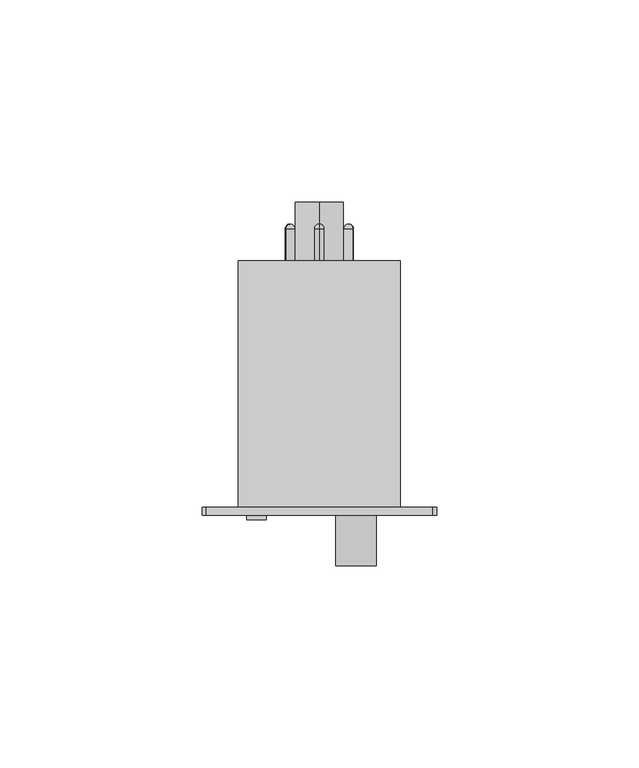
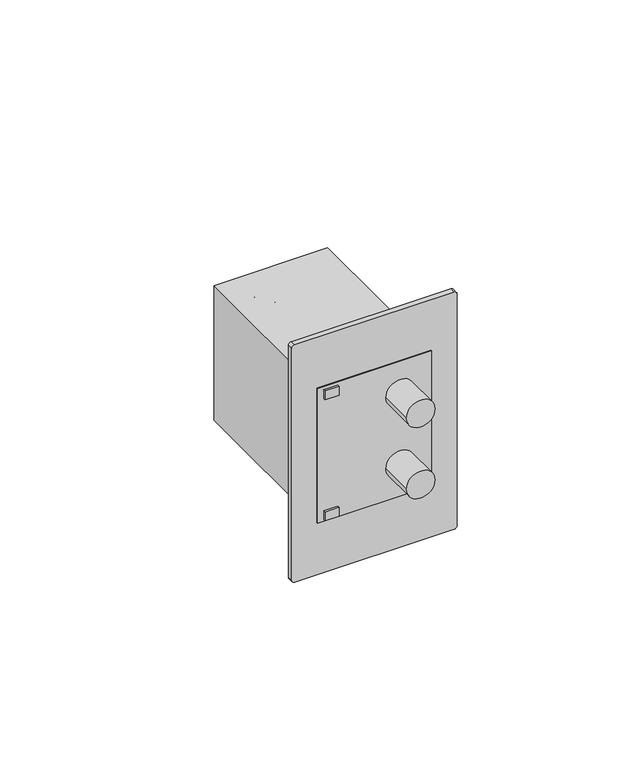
"""IFC4 building model written with IfcOpenShell, lengths in millimetres: proxy geometry, TDM_РЕЛЕ ВРЕМЕНИ ЦОКОЛЬНЫЙ СЕРИИ РВ51-РВ52-РВ53 : РВ51-2Т-60х60 сек -5 А-220 В-8Ц/Щ."""

from ifc_helpers import new_model, si_unit, point, frame, frame_2d, origin, place, context, project, spatial, polyline, circle_curve, ellipse_curve, trimmed, segment, composite_curve, outline, extrude, source, transform, mapped, element, save
from ifc_brep_helpers import plane_surface, cylinder_surface, revolved_surface, advanced_brep


def electrical_equipment_c476cc4e(model_context):
    return source(origin(), model_context, "Body", "SolidModel", [
        advanced_brep(
        [(6.2627831, 36.9318195, 3.6158195), (8.2791554, 36.9318195, 4.7799726), (7.2709693, 38.0410993, 4.1978961), (6.2627831, 29.0, 3.6158195), (8.2791554, 29.0, 4.7799726), (7.2709693, 29.0, 4.1978961)],
        [
            (0, 1, circle_curve(frame((7.2709693, 36.9318195, 4.1978961), z_axis=(0.0, 1.0, 0.0), x_axis=(0.8660254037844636, 0.0, 0.49999999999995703)), 1.1641531)),
            (1, 2, circle_curve(frame((7.3173709, 36.9318195, 4.2246861), z_axis=(-0.49999999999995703, 0.0, 0.8660254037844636), x_axis=(0.0, -1.0, 0.0)), 1.1105731)),
            (2, 0, circle_curve(frame((7.2245676, 36.9318195, 4.171106), z_axis=(-0.49999999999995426, 0.0, 0.8660254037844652), x_axis=(0.0, -1.0, 0.0)), 1.1105731)),
            (1, 0, circle_curve(frame((7.2709693, 36.9318195, 4.1978961), z_axis=(0.0, 1.0, 0.0), x_axis=(0.8660254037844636, 0.0, 0.49999999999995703)), 1.1641531)),
            (3, 4, circle_curve(frame((7.2709693, 29.0, 4.1978961), z_axis=(0.0, 1.0, 0.0), x_axis=(0.8660254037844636, 0.0, 0.49999999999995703)), 1.1641531)),
            (4, 1),
            (0, 3),
            (4, 3, circle_curve(frame((7.2709693, 29.0, 4.1978961), z_axis=(0.0, 1.0, 0.0), x_axis=(0.8660254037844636, 0.0, 0.49999999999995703)), 1.1641531)),
            (5, 4),
            (3, 5),
        ],
        [
            revolved_surface(trimmed(ellipse_curve(frame((7.3173709, 36.9318195, 4.2246861), z_axis=(0.49999999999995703, 0.0, -0.8660254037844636), x_axis=(0.0, -1.0, 0.0)), 1.1105731, 1.1105731), [point((7.2709693, 38.0410993, 4.1978961))], [point((8.2791554, 36.9318195, 4.7799726))], True, "CARTESIAN"), (7.2709693, 36.0076957, 4.1978961), (0.0, -1.0, 0.0)),
            cylinder_surface(frame((7.2709693, 36.0076957, 4.1978961), z_axis=(0.0, -1.0, 0.0), x_axis=(0.8660254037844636, 0.0, 0.49999999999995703)), 1.1641531),
            plane_surface(frame((7.2709693, 29.0, 4.1978961), z_axis=(0.0, -1.0000000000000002, 0.0), x_axis=(0.8660254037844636, 0.0, 0.49999999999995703))),
        ],
        [
            (0, [[1, 2, 3]]),
            (0, [[4, -3, -2]]),
            (1, [[5, 6, -1, 7]]),
            (1, [[8, -7, -4, -6]]),
            (2, [[9, -5, 10]]),
            (2, [[-10, -8, -9]]),
        ],
    ),
        advanced_brep(
        [(6.2627831, 36.9318195, -3.6158195), (8.2791554, 36.9318195, -4.7799726), (7.2709693, 38.0410993, -4.1978961), (6.2627831, 29.0, -3.6158195), (8.2791554, 29.0, -4.7799726), (7.2709693, 29.0, -4.1978961)],
        [
            (0, 1, circle_curve(frame((7.2709693, 36.9318195, -4.1978961), z_axis=(0.0, 1.0, 0.0), x_axis=(0.8660254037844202, 0.0, -0.5000000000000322)), 1.1641531)),
            (1, 2, circle_curve(frame((7.3173709, 36.9318195, -4.2246861), z_axis=(0.5000000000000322, 0.0, 0.8660254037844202), x_axis=(0.0, -1.0, 0.0)), 1.1105731)),
            (2, 0, circle_curve(frame((7.2245676, 36.9318195, -4.171106), z_axis=(0.500000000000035, 0.0, 0.8660254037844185), x_axis=(0.0, -1.0, 0.0)), 1.1105731)),
            (1, 0, circle_curve(frame((7.2709693, 36.9318195, -4.1978961), z_axis=(0.0, 1.0, 0.0), x_axis=(0.8660254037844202, 0.0, -0.5000000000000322)), 1.1641531)),
            (3, 4, circle_curve(frame((7.2709693, 29.0, -4.1978961), z_axis=(0.0, 1.0, 0.0), x_axis=(0.8660254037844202, 0.0, -0.5000000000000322)), 1.1641531)),
            (4, 1),
            (0, 3),
            (4, 3, circle_curve(frame((7.2709693, 29.0, -4.1978961), z_axis=(0.0, 1.0, 0.0), x_axis=(0.8660254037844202, 0.0, -0.5000000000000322)), 1.1641531)),
            (5, 4),
            (3, 5),
        ],
        [
            revolved_surface(trimmed(ellipse_curve(frame((7.3173709, 36.9318195, -4.2246861), z_axis=(-0.5000000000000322, 0.0, -0.8660254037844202), x_axis=(0.0, -1.0, 0.0)), 1.1105731, 1.1105731), [point((7.2709693, 38.0410993, -4.1978961))], [point((8.2791554, 36.9318195, -4.7799726))], True, "CARTESIAN"), (7.2709693, 36.0076957, -4.1978961), (0.0, -1.0, 0.0)),
            cylinder_surface(frame((7.2709693, 36.0076957, -4.1978961), z_axis=(0.0, -1.0, 0.0), x_axis=(0.8660254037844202, 0.0, -0.5000000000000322)), 1.1641531),
            plane_surface(frame((7.2709693, 29.0, -4.1978961), z_axis=(0.0, -1.0000000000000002, 0.0), x_axis=(0.8660254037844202, 0.0, -0.5000000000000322))),
        ],
        [
            (0, [[1, 2, 3]]),
            (0, [[4, -3, -2]]),
            (1, [[5, 6, -1, 7]]),
            (1, [[8, -7, -4, -6]]),
            (2, [[9, -5, 10]]),
            (2, [[-10, -8, -9]]),
        ],
    ),
        advanced_brep(
        [(0.0, 36.9318195, -7.231639), (0.0, 36.9318195, -9.5599453), (0.0, 38.0410993, -8.3957921), (0.0, 29.0, -7.231639), (0.0, 29.0, -9.5599453), (0.0, 29.0, -8.3957921)],
        [
            (0, 1, circle_curve(frame((0.0, 36.9318195, -8.3957921), z_axis=(0.0, 1.0, 0.0), x_axis=(0.0, 0.0, -1.0)), 1.1641531)),
            (1, 2, circle_curve(frame((0.0, 36.9318195, -8.4493722), z_axis=(1.0, 0.0, 0.0), x_axis=(0.0, -1.0, 0.0)), 1.1105731)),
            (2, 0, circle_curve(frame((0.0, 36.9318195, -8.3422121), z_axis=(1.0, 0.0, 0.0), x_axis=(0.0, -1.0, 0.0)), 1.1105731)),
            (1, 0, circle_curve(frame((0.0, 36.9318195, -8.3957921), z_axis=(0.0, 1.0, 0.0), x_axis=(0.0, 0.0, -1.0)), 1.1641531)),
            (3, 4, circle_curve(frame((0.0, 29.0, -8.3957921), z_axis=(0.0, 1.0, 0.0), x_axis=(0.0, 0.0, -1.0)), 1.1641531)),
            (4, 1),
            (0, 3),
            (4, 3, circle_curve(frame((0.0, 29.0, -8.3957921), z_axis=(0.0, 1.0, 0.0), x_axis=(0.0, 0.0, -1.0)), 1.1641531)),
            (5, 4),
            (3, 5),
        ],
        [
            revolved_surface(trimmed(ellipse_curve(frame((0.0, 36.9318195, -8.4493722), z_axis=(-1.0, 0.0, 0.0), x_axis=(0.0, -1.0, 0.0)), 1.1105731, 1.1105731), [point((0.0, 38.0410993, -8.3957921))], [point((0.0, 36.9318195, -9.5599453))], True, "CARTESIAN"), (0.0, 36.0076957, -8.3957921), (0.0, -1.0, 0.0)),
            cylinder_surface(frame((0.0, 36.0076957, -8.3957921), z_axis=(0.0, -1.0, 0.0), x_axis=(0.0, 0.0, -1.0)), 1.1641531),
            plane_surface(frame((0.0, 29.0, -8.3957921), z_axis=(0.0, -1.0, 0.0), x_axis=(0.0, 0.0, -1.0))),
        ],
        [
            (0, [[1, 2, 3]]),
            (0, [[4, -3, -2]]),
            (1, [[5, 6, -1, 7]]),
            (1, [[8, -7, -4, -6]]),
            (2, [[9, -5, 10]]),
            (2, [[-10, -8, -9]]),
        ],
    ),
        advanced_brep(
        [(-6.2627831, 36.9318195, -3.6158195), (-8.2791554, 36.9318195, -4.7799726), (-7.2709693, 38.0410993, -4.1978961), (-6.2627831, 29.0, -3.6158195), (-8.2791554, 29.0, -4.7799726), (-7.2709693, 29.0, -4.1978961)],
        [
            (0, 1, circle_curve(frame((-7.2709693, 36.9318195, -4.1978961), z_axis=(0.0, 1.0, 0.0), x_axis=(-0.8660254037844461, 0.0, -0.4999999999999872)), 1.1641531)),
            (1, 2, circle_curve(frame((-7.3173709, 36.9318195, -4.2246861), z_axis=(0.4999999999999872, 0.0, -0.8660254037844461), x_axis=(0.0, -1.0, 0.0)), 1.1105731)),
            (2, 0, circle_curve(frame((-7.2245676, 36.9318195, -4.171106), z_axis=(0.4999999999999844, 0.0, -0.8660254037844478), x_axis=(0.0, -1.0, 0.0)), 1.1105731)),
            (1, 0, circle_curve(frame((-7.2709693, 36.9318195, -4.1978961), z_axis=(0.0, 1.0, 0.0), x_axis=(-0.8660254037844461, 0.0, -0.4999999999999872)), 1.1641531)),
            (3, 4, circle_curve(frame((-7.2709693, 29.0, -4.1978961), z_axis=(0.0, 1.0, 0.0), x_axis=(-0.8660254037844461, 0.0, -0.4999999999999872)), 1.1641531)),
            (4, 1),
            (0, 3),
            (4, 3, circle_curve(frame((-7.2709693, 29.0, -4.1978961), z_axis=(0.0, 1.0, 0.0), x_axis=(-0.8660254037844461, 0.0, -0.4999999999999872)), 1.1641531)),
            (5, 4),
            (3, 5),
        ],
        [
            revolved_surface(trimmed(ellipse_curve(frame((-7.3173709, 36.9318195, -4.2246861), z_axis=(-0.4999999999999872, 0.0, 0.8660254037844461), x_axis=(0.0, -1.0, 0.0)), 1.1105731, 1.1105731), [point((-7.2709693, 38.0410993, -4.1978961))], [point((-8.2791554, 36.9318195, -4.7799726))], True, "CARTESIAN"), (-7.2709693, 36.0076957, -4.1978961), (0.0, -1.0, 0.0)),
            cylinder_surface(frame((-7.2709693, 36.0076957, -4.1978961), z_axis=(0.0, -1.0, 0.0), x_axis=(-0.8660254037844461, 0.0, -0.4999999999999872)), 1.1641531),
            plane_surface(frame((-7.2709693, 29.0, -4.1978961), z_axis=(0.0, -1.0000000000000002, 0.0), x_axis=(-0.8660254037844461, 0.0, -0.4999999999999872))),
        ],
        [
            (0, [[1, 2, 3]]),
            (0, [[4, -3, -2]]),
            (1, [[5, 6, -1, 7]]),
            (1, [[8, -7, -4, -6]]),
            (2, [[9, -5, 10]]),
            (2, [[-10, -8, -9]]),
        ],
    ),
        advanced_brep(
        [(-6.2627831, 36.9318195, 3.6158195), (-8.2791554, 36.9318195, 4.7799726), (-7.2709693, 38.0410993, 4.1978961), (-6.2627831, 29.0, 3.6158195), (-8.2791554, 29.0, 4.7799726), (-7.2709693, 29.0, 4.1978961)],
        [
            (0, 1, circle_curve(frame((-7.2709693, 36.9318195, 4.1978961), z_axis=(0.0, 1.0, 0.0), x_axis=(-0.8660254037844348, 0.0, 0.5000000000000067)), 1.1641531)),
            (1, 2, circle_curve(frame((-7.3173709, 36.9318195, 4.2246861), z_axis=(-0.5000000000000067, 0.0, -0.8660254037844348), x_axis=(0.0, -1.0, 0.0)), 1.1105731)),
            (2, 0, circle_curve(frame((-7.2245676, 36.9318195, 4.171106), z_axis=(-0.5000000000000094, 0.0, -0.8660254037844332), x_axis=(0.0, -1.0, 0.0)), 1.1105731)),
            (1, 0, circle_curve(frame((-7.2709693, 36.9318195, 4.1978961), z_axis=(0.0, 1.0, 0.0), x_axis=(-0.8660254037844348, 0.0, 0.5000000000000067)), 1.1641531)),
            (3, 4, circle_curve(frame((-7.2709693, 29.0, 4.1978961), z_axis=(0.0, 1.0, 0.0), x_axis=(-0.8660254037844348, 0.0, 0.5000000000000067)), 1.1641531)),
            (4, 1),
            (0, 3),
            (4, 3, circle_curve(frame((-7.2709693, 29.0, 4.1978961), z_axis=(0.0, 1.0, 0.0), x_axis=(-0.8660254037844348, 0.0, 0.5000000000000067)), 1.1641531)),
            (5, 4),
            (3, 5),
        ],
        [
            revolved_surface(trimmed(ellipse_curve(frame((-7.3173709, 36.9318195, 4.2246861), z_axis=(0.5000000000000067, 0.0, 0.8660254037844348), x_axis=(0.0, -1.0, 0.0)), 1.1105731, 1.1105731), [point((-7.2709693, 38.0410993, 4.1978961))], [point((-8.2791554, 36.9318195, 4.7799726))], True, "CARTESIAN"), (-7.2709693, 36.0076957, 4.1978961), (0.0, -1.0, 0.0)),
            cylinder_surface(frame((-7.2709693, 36.0076957, 4.1978961), z_axis=(0.0, -1.0, 0.0), x_axis=(-0.8660254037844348, 0.0, 0.5000000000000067)), 1.1641531),
            plane_surface(frame((-7.2709693, 29.0, 4.1978961), z_axis=(0.0, -1.0, 0.0), x_axis=(-0.8660254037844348, 0.0, 0.5000000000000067))),
        ],
        [
            (0, [[1, 2, 3]]),
            (0, [[4, -3, -2]]),
            (1, [[5, 6, -1, 7]]),
            (1, [[8, -7, -4, -6]]),
            (2, [[9, -5, 10]]),
            (2, [[-10, -8, -9]]),
        ],
    ),
        advanced_brep(
        [(0.0, 36.9318195, 7.231639), (0.0, 36.9318195, 9.5599453), (0.0, 38.0410993, 8.3957921), (0.0, 29.0, 7.231639), (0.0, 29.0, 9.5599453), (0.0, 29.0, 8.3957921)],
        [
            (0, 1, circle_curve(frame((0.0, 36.9318195, 8.3957921), z_axis=(0.0, 1.0, 0.0), x_axis=(0.0, 0.0, 1.0)), 1.1641531)),
            (1, 2, circle_curve(frame((0.0, 36.9318195, 8.4493722), z_axis=(-1.0, 0.0, 0.0), x_axis=(0.0, -1.0, 0.0)), 1.1105731)),
            (2, 0, circle_curve(frame((0.0, 36.9318195, 8.3422121), z_axis=(-1.0, 0.0, 0.0), x_axis=(0.0, -1.0, 0.0)), 1.1105731)),
            (1, 0, circle_curve(frame((0.0, 36.9318195, 8.3957921), z_axis=(0.0, 1.0, 0.0), x_axis=(0.0, 0.0, 1.0)), 1.1641531)),
            (3, 4, circle_curve(frame((0.0, 29.0, 8.3957921), z_axis=(0.0, 1.0, 0.0), x_axis=(0.0, 0.0, 1.0)), 1.1641531)),
            (4, 1),
            (0, 3),
            (4, 3, circle_curve(frame((0.0, 29.0, 8.3957921), z_axis=(0.0, 1.0, 0.0), x_axis=(0.0, 0.0, 1.0)), 1.1641531)),
            (5, 4),
            (3, 5),
        ],
        [
            revolved_surface(trimmed(ellipse_curve(frame((0.0, 36.9318195, 8.4493722), z_axis=(1.0, 0.0, 0.0), x_axis=(0.0, -1.0, 0.0)), 1.1105731, 1.1105731), [point((0.0, 38.0410993, 8.3957921))], [point((0.0, 36.9318195, 9.5599453))], True, "CARTESIAN"), (0.0, 36.0076957, 8.3957921), (0.0, -1.0, 0.0)),
            cylinder_surface(frame((0.0, 36.0076957, 8.3957921), z_axis=(0.0, -1.0, 0.0), x_axis=(0.0, 0.0, 1.0)), 1.1641531),
            plane_surface(frame((0.0, 29.0, 8.3957921), z_axis=(0.0, -1.0, 0.0), x_axis=(0.0, 0.0, 1.0))),
        ],
        [
            (0, [[1, 2, 3]]),
            (0, [[4, -3, -2]]),
            (1, [[5, 6, -1, 7]]),
            (1, [[8, -7, -4, -6]]),
            (2, [[9, -5, 10]]),
            (2, [[-10, -8, -9]]),
        ],
    ),
        advanced_brep(
        [(0.0, 43.5, -6.0), (0.0, 43.5, 6.0), (0.0, 43.5, 0.0), (0.0, 29.0, -6.0), (0.0, 29.0, 6.0), (0.0, 29.0, 0.0)],
        [
            (0, 1, circle_curve(frame((0.0, 43.5, 0.0), z_axis=(0.0, 1.0, 0.0), x_axis=(0.0, 0.0, 1.0)), 6.0)),
            (1, 2),
            (2, 0),
            (1, 0, circle_curve(frame((0.0, 43.5, 0.0), z_axis=(0.0, 1.0, 0.0), x_axis=(0.0, 0.0, 1.0)), 6.0)),
            (3, 4, circle_curve(frame((0.0, 29.0, 0.0), z_axis=(0.0, 1.0, 0.0), x_axis=(0.0, 0.0, 1.0)), 6.0)),
            (4, 1),
            (0, 3),
            (4, 3, circle_curve(frame((0.0, 29.0, 0.0), z_axis=(0.0, 1.0, 0.0), x_axis=(0.0, 0.0, 1.0)), 6.0)),
            (5, 4),
            (3, 5),
        ],
        [
            plane_surface(frame((0.0, 43.5, 0.0), z_axis=(0.0, 1.0, 0.0), x_axis=(0.0, 0.0, 1.0))),
            cylinder_surface(frame((0.0, 38.2709729, 0.0), z_axis=(0.0, -1.0, 0.0), x_axis=(0.0, 0.0, 1.0)), 6.0),
            plane_surface(frame((0.0, 29.0, 0.0), z_axis=(0.0, -1.0, 0.0), x_axis=(0.0, 0.0, 1.0))),
        ],
        [
            (0, [[1, 2, 3]]),
            (0, [[4, -3, -2]]),
            (1, [[5, 6, -1, 7]]),
            (1, [[8, -7, -4, -6]]),
            (2, [[9, -5, 10]]),
            (2, [[-10, -8, -9]]),
        ],
    ),
        extrude(outline(composite_curve([segment(trimmed(circle_curve(frame_2d((13.1840824, 9.0653169)), 5.0), [point((13.1840824, 4.0653169))], [point((13.1840824, 14.0653169))], False, "CARTESIAN"), True, "CONTINUOUS"), segment(trimmed(circle_curve(frame_2d((13.1840824, 9.0653169)), 5.0), [point((13.1840824, 14.0653169))], [point((13.1840824, 4.0653169))], False, "CARTESIAN"), True, "CONTINUOUS")], self_intersect=False)), frame((0.0, -46.5, 0.0), z_axis=(0.0, 1.0, 0.0), x_axis=(0.0, 0.0, 1.0)), (0.0, 0.0, 1.0), 12.5),
        extrude(outline(composite_curve([segment(trimmed(circle_curve(frame_2d((-13.1840824, 9.0653169)), 5.0), [point((-13.1840824, 4.0653169))], [point((-13.1840824, 14.0653169))], False, "CARTESIAN"), True, "CONTINUOUS"), segment(trimmed(circle_curve(frame_2d((-13.1840824, 9.0653169)), 5.0), [point((-13.1840824, 14.0653169))], [point((-13.1840824, 4.0653169))], False, "CARTESIAN"), True, "CONTINUOUS")], self_intersect=False)), frame((0.0, -46.5, 0.0), z_axis=(0.0, 1.0, 0.0), x_axis=(0.0, 0.0, 1.0)), (0.0, 0.0, 1.0), 12.5),
        extrude(outline(polyline([(20.0, -34.0), (-20.0, -34.0), (-20.0, 29.0), (20.0, 29.0), (20.0, -34.0)])), frame((0.0, 0.0, -25.0), z_axis=(0.0, 0.0, 1.0), x_axis=(1.0, 0.0, 0.0)), (0.0, 0.0, 1.0), 50.0),
        extrude(outline(composite_curve([segment(polyline([(44.0, 28.0), (44.0, -28.0)]), True, "CONTINUOUS"), segment(trimmed(circle_curve(frame_2d((43.0, -28.0)), 1.0), [point((44.0, -28.0))], [point((43.0, -29.0))], False, "CARTESIAN"), True, "CONTINUOUS"), segment(polyline([(43.0, -29.0), (-43.0, -29.0)]), True, "CONTINUOUS"), segment(trimmed(circle_curve(frame_2d((-43.0, -28.0)), 1.0), [point((-43.0, -29.0))], [point((-44.0, -28.0))], False, "CARTESIAN"), True, "CONTINUOUS"), segment(polyline([(-44.0, -28.0), (-44.0, 28.0)]), True, "CONTINUOUS"), segment(trimmed(circle_curve(frame_2d((-43.0, 28.0)), 1.0), [point((-44.0, 28.0))], [point((-43.0, 29.0))], False, "CARTESIAN"), True, "CONTINUOUS"), segment(polyline([(-43.0, 29.0), (43.0, 29.0)]), True, "CONTINUOUS"), segment(trimmed(circle_curve(frame_2d((43.0, 28.0)), 1.0), [point((43.0, 29.0))], [point((44.0, 28.0))], False, "CARTESIAN"), True, "CONTINUOUS")], self_intersect=False), holes=[polyline([(25.0, 20.0), (-25.0, 20.0), (-25.0, -20.0), (25.0, -20.0), (25.0, 20.0)])]), frame((0.0, -34.0, 0.0), z_axis=(0.0, 1.0, 0.0), x_axis=(0.0, 0.0, 1.0)), (0.0, 0.0, 1.0), 2.0),
        extrude(outline(polyline([(-13.099623, -34.0), (-13.099623, -35.1140943), (-17.9730158, -35.1140943), (-17.9730158, -34.0), (-13.099623, -34.0)])), frame((0.0, 0.0, -24.115355), z_axis=(0.0, 0.0, 1.0), x_axis=(1.0, 0.0, 0.0)), (0.0, 0.0, 1.0), 3.2953295),
        extrude(outline(polyline([(-13.099623, -34.0), (-13.099623, -35.1140943), (-17.9730158, -35.1140943), (-17.9730158, -34.0), (-13.099623, -34.0)])), frame((0.0, 0.0, 20.8200255), z_axis=(0.0, 0.0, 1.0), x_axis=(1.0, 0.0, 0.0)), (0.0, 0.0, 1.0), 3.2953295),
        advanced_brep(
        [(6.2627831, 36.9318195, 3.6158195), (8.2791554, 36.9318195, 4.7799726), (7.2709693, 38.0410993, 4.1978961), (6.2627831, 29.0, 3.6158195), (8.2791554, 29.0, 4.7799726), (7.2709693, 29.0, 4.1978961)],
        [
            (0, 1, circle_curve(frame((7.2709693, 36.9318195, 4.1978961), z_axis=(0.0, 1.0, 0.0), x_axis=(0.8660254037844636, 0.0, 0.49999999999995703)), 1.1641531)),
            (1, 2, circle_curve(frame((7.3173709, 36.9318195, 4.2246861), z_axis=(-0.49999999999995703, 0.0, 0.8660254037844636), x_axis=(0.0, -1.0, 0.0)), 1.1105731)),
            (2, 0, circle_curve(frame((7.2245676, 36.9318195, 4.171106), z_axis=(-0.49999999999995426, 0.0, 0.8660254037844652), x_axis=(0.0, -1.0, 0.0)), 1.1105731)),
            (1, 0, circle_curve(frame((7.2709693, 36.9318195, 4.1978961), z_axis=(0.0, 1.0, 0.0), x_axis=(0.8660254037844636, 0.0, 0.49999999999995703)), 1.1641531)),
            (3, 4, circle_curve(frame((7.2709693, 29.0, 4.1978961), z_axis=(0.0, 1.0, 0.0), x_axis=(0.8660254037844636, 0.0, 0.49999999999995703)), 1.1641531)),
            (4, 1),
            (0, 3),
            (4, 3, circle_curve(frame((7.2709693, 29.0, 4.1978961), z_axis=(0.0, 1.0, 0.0), x_axis=(0.8660254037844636, 0.0, 0.49999999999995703)), 1.1641531)),
            (5, 4),
            (3, 5),
        ],
        [
            revolved_surface(trimmed(ellipse_curve(frame((7.3173709, 36.9318195, 4.2246861), z_axis=(0.49999999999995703, 0.0, -0.8660254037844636), x_axis=(0.0, -1.0, 0.0)), 1.1105731, 1.1105731), [point((7.2709693, 38.0410993, 4.1978961))], [point((8.2791554, 36.9318195, 4.7799726))], True, "CARTESIAN"), (7.2709693, 36.0076957, 4.1978961), (0.0, -1.0, 0.0)),
            cylinder_surface(frame((7.2709693, 36.0076957, 4.1978961), z_axis=(0.0, -1.0, 0.0), x_axis=(0.8660254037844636, 0.0, 0.49999999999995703)), 1.1641531),
            plane_surface(frame((7.2709693, 29.0, 4.1978961), z_axis=(0.0, -1.0000000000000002, 0.0), x_axis=(0.8660254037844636, 0.0, 0.49999999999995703))),
        ],
        [
            (0, [[1, 2, 3]]),
            (0, [[4, -3, -2]]),
            (1, [[5, 6, -1, 7]]),
            (1, [[8, -7, -4, -6]]),
            (2, [[9, -5, 10]]),
            (2, [[-10, -8, -9]]),
        ],
    ),
        advanced_brep(
        [(6.2627831, 36.9318195, -3.6158195), (8.2791554, 36.9318195, -4.7799726), (7.2709693, 38.0410993, -4.1978961), (6.2627831, 29.0, -3.6158195), (8.2791554, 29.0, -4.7799726), (7.2709693, 29.0, -4.1978961)],
        [
            (0, 1, circle_curve(frame((7.2709693, 36.9318195, -4.1978961), z_axis=(0.0, 1.0, 0.0), x_axis=(0.8660254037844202, 0.0, -0.5000000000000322)), 1.1641531)),
            (1, 2, circle_curve(frame((7.3173709, 36.9318195, -4.2246861), z_axis=(0.5000000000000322, 0.0, 0.8660254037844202), x_axis=(0.0, -1.0, 0.0)), 1.1105731)),
            (2, 0, circle_curve(frame((7.2245676, 36.9318195, -4.171106), z_axis=(0.500000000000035, 0.0, 0.8660254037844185), x_axis=(0.0, -1.0, 0.0)), 1.1105731)),
            (1, 0, circle_curve(frame((7.2709693, 36.9318195, -4.1978961), z_axis=(0.0, 1.0, 0.0), x_axis=(0.8660254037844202, 0.0, -0.5000000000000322)), 1.1641531)),
            (3, 4, circle_curve(frame((7.2709693, 29.0, -4.1978961), z_axis=(0.0, 1.0, 0.0), x_axis=(0.8660254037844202, 0.0, -0.5000000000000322)), 1.1641531)),
            (4, 1),
            (0, 3),
            (4, 3, circle_curve(frame((7.2709693, 29.0, -4.1978961), z_axis=(0.0, 1.0, 0.0), x_axis=(0.8660254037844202, 0.0, -0.5000000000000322)), 1.1641531)),
            (5, 4),
            (3, 5),
        ],
        [
            revolved_surface(trimmed(ellipse_curve(frame((7.3173709, 36.9318195, -4.2246861), z_axis=(-0.5000000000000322, 0.0, -0.8660254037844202), x_axis=(0.0, -1.0, 0.0)), 1.1105731, 1.1105731), [point((7.2709693, 38.0410993, -4.1978961))], [point((8.2791554, 36.9318195, -4.7799726))], True, "CARTESIAN"), (7.2709693, 36.0076957, -4.1978961), (0.0, -1.0, 0.0)),
            cylinder_surface(frame((7.2709693, 36.0076957, -4.1978961), z_axis=(0.0, -1.0, 0.0), x_axis=(0.8660254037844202, 0.0, -0.5000000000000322)), 1.1641531),
            plane_surface(frame((7.2709693, 29.0, -4.1978961), z_axis=(0.0, -1.0000000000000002, 0.0), x_axis=(0.8660254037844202, 0.0, -0.5000000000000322))),
        ],
        [
            (0, [[1, 2, 3]]),
            (0, [[4, -3, -2]]),
            (1, [[5, 6, -1, 7]]),
            (1, [[8, -7, -4, -6]]),
            (2, [[9, -5, 10]]),
            (2, [[-10, -8, -9]]),
        ],
    ),
        advanced_brep(
        [(0.0, 36.9318195, -7.231639), (0.0, 36.9318195, -9.5599453), (0.0, 38.0410993, -8.3957921), (0.0, 29.0, -7.231639), (0.0, 29.0, -9.5599453), (0.0, 29.0, -8.3957921)],
        [
            (0, 1, circle_curve(frame((0.0, 36.9318195, -8.3957921), z_axis=(0.0, 1.0, 0.0), x_axis=(0.0, 0.0, -1.0)), 1.1641531)),
            (1, 2, circle_curve(frame((0.0, 36.9318195, -8.4493722), z_axis=(1.0, 0.0, 0.0), x_axis=(0.0, -1.0, 0.0)), 1.1105731)),
            (2, 0, circle_curve(frame((0.0, 36.9318195, -8.3422121), z_axis=(1.0, 0.0, 0.0), x_axis=(0.0, -1.0, 0.0)), 1.1105731)),
            (1, 0, circle_curve(frame((0.0, 36.9318195, -8.3957921), z_axis=(0.0, 1.0, 0.0), x_axis=(0.0, 0.0, -1.0)), 1.1641531)),
            (3, 4, circle_curve(frame((0.0, 29.0, -8.3957921), z_axis=(0.0, 1.0, 0.0), x_axis=(0.0, 0.0, -1.0)), 1.1641531)),
            (4, 1),
            (0, 3),
            (4, 3, circle_curve(frame((0.0, 29.0, -8.3957921), z_axis=(0.0, 1.0, 0.0), x_axis=(0.0, 0.0, -1.0)), 1.1641531)),
            (5, 4),
            (3, 5),
        ],
        [
            revolved_surface(trimmed(ellipse_curve(frame((0.0, 36.9318195, -8.4493722), z_axis=(-1.0, 0.0, 0.0), x_axis=(0.0, -1.0, 0.0)), 1.1105731, 1.1105731), [point((0.0, 38.0410993, -8.3957921))], [point((0.0, 36.9318195, -9.5599453))], True, "CARTESIAN"), (0.0, 36.0076957, -8.3957921), (0.0, -1.0, 0.0)),
            cylinder_surface(frame((0.0, 36.0076957, -8.3957921), z_axis=(0.0, -1.0, 0.0), x_axis=(0.0, 0.0, -1.0)), 1.1641531),
            plane_surface(frame((0.0, 29.0, -8.3957921), z_axis=(0.0, -1.0, 0.0), x_axis=(0.0, 0.0, -1.0))),
        ],
        [
            (0, [[1, 2, 3]]),
            (0, [[4, -3, -2]]),
            (1, [[5, 6, -1, 7]]),
            (1, [[8, -7, -4, -6]]),
            (2, [[9, -5, 10]]),
            (2, [[-10, -8, -9]]),
        ],
    ),
        advanced_brep(
        [(-6.2627831, 36.9318195, -3.6158195), (-8.2791554, 36.9318195, -4.7799726), (-7.2709693, 38.0410993, -4.1978961), (-6.2627831, 29.0, -3.6158195), (-8.2791554, 29.0, -4.7799726), (-7.2709693, 29.0, -4.1978961)],
        [
            (0, 1, circle_curve(frame((-7.2709693, 36.9318195, -4.1978961), z_axis=(0.0, 1.0, 0.0), x_axis=(-0.8660254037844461, 0.0, -0.4999999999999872)), 1.1641531)),
            (1, 2, circle_curve(frame((-7.3173709, 36.9318195, -4.2246861), z_axis=(0.4999999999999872, 0.0, -0.8660254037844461), x_axis=(0.0, -1.0, 0.0)), 1.1105731)),
            (2, 0, circle_curve(frame((-7.2245676, 36.9318195, -4.171106), z_axis=(0.4999999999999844, 0.0, -0.8660254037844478), x_axis=(0.0, -1.0, 0.0)), 1.1105731)),
            (1, 0, circle_curve(frame((-7.2709693, 36.9318195, -4.1978961), z_axis=(0.0, 1.0, 0.0), x_axis=(-0.8660254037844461, 0.0, -0.4999999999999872)), 1.1641531)),
            (3, 4, circle_curve(frame((-7.2709693, 29.0, -4.1978961), z_axis=(0.0, 1.0, 0.0), x_axis=(-0.8660254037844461, 0.0, -0.4999999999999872)), 1.1641531)),
            (4, 1),
            (0, 3),
            (4, 3, circle_curve(frame((-7.2709693, 29.0, -4.1978961), z_axis=(0.0, 1.0, 0.0), x_axis=(-0.8660254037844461, 0.0, -0.4999999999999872)), 1.1641531)),
            (5, 4),
            (3, 5),
        ],
        [
            revolved_surface(trimmed(ellipse_curve(frame((-7.3173709, 36.9318195, -4.2246861), z_axis=(-0.4999999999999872, 0.0, 0.8660254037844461), x_axis=(0.0, -1.0, 0.0)), 1.1105731, 1.1105731), [point((-7.2709693, 38.0410993, -4.1978961))], [point((-8.2791554, 36.9318195, -4.7799726))], True, "CARTESIAN"), (-7.2709693, 36.0076957, -4.1978961), (0.0, -1.0, 0.0)),
            cylinder_surface(frame((-7.2709693, 36.0076957, -4.1978961), z_axis=(0.0, -1.0, 0.0), x_axis=(-0.8660254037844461, 0.0, -0.4999999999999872)), 1.1641531),
            plane_surface(frame((-7.2709693, 29.0, -4.1978961), z_axis=(0.0, -1.0000000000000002, 0.0), x_axis=(-0.8660254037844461, 0.0, -0.4999999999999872))),
        ],
        [
            (0, [[1, 2, 3]]),
            (0, [[4, -3, -2]]),
            (1, [[5, 6, -1, 7]]),
            (1, [[8, -7, -4, -6]]),
            (2, [[9, -5, 10]]),
            (2, [[-10, -8, -9]]),
        ],
    ),
        advanced_brep(
        [(-6.2627831, 36.9318195, 3.6158195), (-8.2791554, 36.9318195, 4.7799726), (-7.2709693, 38.0410993, 4.1978961), (-6.2627831, 29.0, 3.6158195), (-8.2791554, 29.0, 4.7799726), (-7.2709693, 29.0, 4.1978961)],
        [
            (0, 1, circle_curve(frame((-7.2709693, 36.9318195, 4.1978961), z_axis=(0.0, 1.0, 0.0), x_axis=(-0.8660254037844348, 0.0, 0.5000000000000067)), 1.1641531)),
            (1, 2, circle_curve(frame((-7.3173709, 36.9318195, 4.2246861), z_axis=(-0.5000000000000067, 0.0, -0.8660254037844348), x_axis=(0.0, -1.0, 0.0)), 1.1105731)),
            (2, 0, circle_curve(frame((-7.2245676, 36.9318195, 4.171106), z_axis=(-0.5000000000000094, 0.0, -0.8660254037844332), x_axis=(0.0, -1.0, 0.0)), 1.1105731)),
            (1, 0, circle_curve(frame((-7.2709693, 36.9318195, 4.1978961), z_axis=(0.0, 1.0, 0.0), x_axis=(-0.8660254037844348, 0.0, 0.5000000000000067)), 1.1641531)),
            (3, 4, circle_curve(frame((-7.2709693, 29.0, 4.1978961), z_axis=(0.0, 1.0, 0.0), x_axis=(-0.8660254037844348, 0.0, 0.5000000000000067)), 1.1641531)),
            (4, 1),
            (0, 3),
            (4, 3, circle_curve(frame((-7.2709693, 29.0, 4.1978961), z_axis=(0.0, 1.0, 0.0), x_axis=(-0.8660254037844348, 0.0, 0.5000000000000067)), 1.1641531)),
            (5, 4),
            (3, 5),
        ],
        [
            revolved_surface(trimmed(ellipse_curve(frame((-7.3173709, 36.9318195, 4.2246861), z_axis=(0.5000000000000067, 0.0, 0.8660254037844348), x_axis=(0.0, -1.0, 0.0)), 1.1105731, 1.1105731), [point((-7.2709693, 38.0410993, 4.1978961))], [point((-8.2791554, 36.9318195, 4.7799726))], True, "CARTESIAN"), (-7.2709693, 36.0076957, 4.1978961), (0.0, -1.0, 0.0)),
            cylinder_surface(frame((-7.2709693, 36.0076957, 4.1978961), z_axis=(0.0, -1.0, 0.0), x_axis=(-0.8660254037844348, 0.0, 0.5000000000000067)), 1.1641531),
            plane_surface(frame((-7.2709693, 29.0, 4.1978961), z_axis=(0.0, -1.0, 0.0), x_axis=(-0.8660254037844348, 0.0, 0.5000000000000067))),
        ],
        [
            (0, [[1, 2, 3]]),
            (0, [[4, -3, -2]]),
            (1, [[5, 6, -1, 7]]),
            (1, [[8, -7, -4, -6]]),
            (2, [[9, -5, 10]]),
            (2, [[-10, -8, -9]]),
        ],
    ),
        advanced_brep(
        [(0.0, 36.9318195, 7.231639), (0.0, 36.9318195, 9.5599453), (0.0, 38.0410993, 8.3957921), (0.0, 29.0, 7.231639), (0.0, 29.0, 9.5599453), (0.0, 29.0, 8.3957921)],
        [
            (0, 1, circle_curve(frame((0.0, 36.9318195, 8.3957921), z_axis=(0.0, 1.0, 0.0), x_axis=(0.0, 0.0, 1.0)), 1.1641531)),
            (1, 2, circle_curve(frame((0.0, 36.9318195, 8.4493722), z_axis=(-1.0, 0.0, 0.0), x_axis=(0.0, -1.0, 0.0)), 1.1105731)),
            (2, 0, circle_curve(frame((0.0, 36.9318195, 8.3422121), z_axis=(-1.0, 0.0, 0.0), x_axis=(0.0, -1.0, 0.0)), 1.1105731)),
            (1, 0, circle_curve(frame((0.0, 36.9318195, 8.3957921), z_axis=(0.0, 1.0, 0.0), x_axis=(0.0, 0.0, 1.0)), 1.1641531)),
            (3, 4, circle_curve(frame((0.0, 29.0, 8.3957921), z_axis=(0.0, 1.0, 0.0), x_axis=(0.0, 0.0, 1.0)), 1.1641531)),
            (4, 1),
            (0, 3),
            (4, 3, circle_curve(frame((0.0, 29.0, 8.3957921), z_axis=(0.0, 1.0, 0.0), x_axis=(0.0, 0.0, 1.0)), 1.1641531)),
            (5, 4),
            (3, 5),
        ],
        [
            revolved_surface(trimmed(ellipse_curve(frame((0.0, 36.9318195, 8.4493722), z_axis=(1.0, 0.0, 0.0), x_axis=(0.0, -1.0, 0.0)), 1.1105731, 1.1105731), [point((0.0, 38.0410993, 8.3957921))], [point((0.0, 36.9318195, 9.5599453))], True, "CARTESIAN"), (0.0, 36.0076957, 8.3957921), (0.0, -1.0, 0.0)),
            cylinder_surface(frame((0.0, 36.0076957, 8.3957921), z_axis=(0.0, -1.0, 0.0), x_axis=(0.0, 0.0, 1.0)), 1.1641531),
            plane_surface(frame((0.0, 29.0, 8.3957921), z_axis=(0.0, -1.0, 0.0), x_axis=(0.0, 0.0, 1.0))),
        ],
        [
            (0, [[1, 2, 3]]),
            (0, [[4, -3, -2]]),
            (1, [[5, 6, -1, 7]]),
            (1, [[8, -7, -4, -6]]),
            (2, [[9, -5, 10]]),
            (2, [[-10, -8, -9]]),
        ],
    ),
        advanced_brep(
        [(0.0, 43.5, -6.0), (0.0, 43.5, 6.0), (0.0, 43.5, 0.0), (0.0, 29.0, -6.0), (0.0, 29.0, 6.0), (0.0, 29.0, 0.0)],
        [
            (0, 1, circle_curve(frame((0.0, 43.5, 0.0), z_axis=(0.0, 1.0, 0.0), x_axis=(0.0, 0.0, 1.0)), 6.0)),
            (1, 2),
            (2, 0),
            (1, 0, circle_curve(frame((0.0, 43.5, 0.0), z_axis=(0.0, 1.0, 0.0), x_axis=(0.0, 0.0, 1.0)), 6.0)),
            (3, 4, circle_curve(frame((0.0, 29.0, 0.0), z_axis=(0.0, 1.0, 0.0), x_axis=(0.0, 0.0, 1.0)), 6.0)),
            (4, 1),
            (0, 3),
            (4, 3, circle_curve(frame((0.0, 29.0, 0.0), z_axis=(0.0, 1.0, 0.0), x_axis=(0.0, 0.0, 1.0)), 6.0)),
            (5, 4),
            (3, 5),
        ],
        [
            plane_surface(frame((0.0, 43.5, 0.0), z_axis=(0.0, 1.0, 0.0), x_axis=(0.0, 0.0, 1.0))),
            cylinder_surface(frame((0.0, 38.2709729, 0.0), z_axis=(0.0, -1.0, 0.0), x_axis=(0.0, 0.0, 1.0)), 6.0),
            plane_surface(frame((0.0, 29.0, 0.0), z_axis=(0.0, -1.0, 0.0), x_axis=(0.0, 0.0, 1.0))),
        ],
        [
            (0, [[1, 2, 3]]),
            (0, [[4, -3, -2]]),
            (1, [[5, 6, -1, 7]]),
            (1, [[8, -7, -4, -6]]),
            (2, [[9, -5, 10]]),
            (2, [[-10, -8, -9]]),
        ],
    ),
        extrude(outline(composite_curve([segment(trimmed(circle_curve(frame_2d((13.1840824, 9.0653169)), 5.0), [point((13.1840824, 4.0653169))], [point((13.1840824, 14.0653169))], False, "CARTESIAN"), True, "CONTINUOUS"), segment(trimmed(circle_curve(frame_2d((13.1840824, 9.0653169)), 5.0), [point((13.1840824, 14.0653169))], [point((13.1840824, 4.0653169))], False, "CARTESIAN"), True, "CONTINUOUS")], self_intersect=False)), frame((0.0, -46.5, 0.0), z_axis=(0.0, 1.0, 0.0), x_axis=(0.0, 0.0, 1.0)), (0.0, 0.0, 1.0), 12.5),
        extrude(outline(composite_curve([segment(trimmed(circle_curve(frame_2d((-13.1840824, 9.0653169)), 5.0), [point((-13.1840824, 4.0653169))], [point((-13.1840824, 14.0653169))], False, "CARTESIAN"), True, "CONTINUOUS"), segment(trimmed(circle_curve(frame_2d((-13.1840824, 9.0653169)), 5.0), [point((-13.1840824, 14.0653169))], [point((-13.1840824, 4.0653169))], False, "CARTESIAN"), True, "CONTINUOUS")], self_intersect=False)), frame((0.0, -46.5, 0.0), z_axis=(0.0, 1.0, 0.0), x_axis=(0.0, 0.0, 1.0)), (0.0, 0.0, 1.0), 12.5),
        extrude(outline(polyline([(20.0, -34.0), (-20.0, -34.0), (-20.0, 29.0), (20.0, 29.0), (20.0, -34.0)])), frame((0.0, 0.0, -25.0), z_axis=(0.0, 0.0, 1.0), x_axis=(1.0, 0.0, 0.0)), (0.0, 0.0, 1.0), 50.0),
        extrude(outline(composite_curve([segment(polyline([(44.0, 28.0), (44.0, -28.0)]), True, "CONTINUOUS"), segment(trimmed(circle_curve(frame_2d((43.0, -28.0)), 1.0), [point((44.0, -28.0))], [point((43.0, -29.0))], False, "CARTESIAN"), True, "CONTINUOUS"), segment(polyline([(43.0, -29.0), (-43.0, -29.0)]), True, "CONTINUOUS"), segment(trimmed(circle_curve(frame_2d((-43.0, -28.0)), 1.0), [point((-43.0, -29.0))], [point((-44.0, -28.0))], False, "CARTESIAN"), True, "CONTINUOUS"), segment(polyline([(-44.0, -28.0), (-44.0, 28.0)]), True, "CONTINUOUS"), segment(trimmed(circle_curve(frame_2d((-43.0, 28.0)), 1.0), [point((-44.0, 28.0))], [point((-43.0, 29.0))], False, "CARTESIAN"), True, "CONTINUOUS"), segment(polyline([(-43.0, 29.0), (43.0, 29.0)]), True, "CONTINUOUS"), segment(trimmed(circle_curve(frame_2d((43.0, 28.0)), 1.0), [point((43.0, 29.0))], [point((44.0, 28.0))], False, "CARTESIAN"), True, "CONTINUOUS")], self_intersect=False), holes=[polyline([(25.0, 20.0), (-25.0, 20.0), (-25.0, -20.0), (25.0, -20.0), (25.0, 20.0)])]), frame((0.0, -34.0, 0.0), z_axis=(0.0, 1.0, 0.0), x_axis=(0.0, 0.0, 1.0)), (0.0, 0.0, 1.0), 2.0),
    ])


if __name__ == "__main__":
    model = new_model("IFC4")
    model_context = context("Model", 3, world=origin())
    ifc_project = project(units=[si_unit("LENGTHUNIT", "METRE", prefix="MILLI")], contexts=[model_context])
    site = spatial("IfcSite", under=ifc_project)
    building = spatial("IfcBuilding", under=site)
    placement = place(None, origin())
    electrical_equipment_shape = electrical_equipment_c476cc4e(model_context)
    element("IfcBuildingElementProxy", 1, Name="TDM_РЕЛЕ ВРЕМЕНИ ЦОКОЛЬНЫЙ СЕРИИ РВ51-РВ52-РВ53 : РВ51-2Т-60х60 сек -5 А-220 В-8Ц/Щ", ObjectType="TDM_РЕЛЕ ВРЕМЕНИ ЦОКОЛЬНЫЙ СЕРИИ РВ51-РВ52-РВ53 : РВ51-2Т-60х60 сек -5 А-220 В-8Ц/Щ", at=placement, inside=building, context=model_context, shape_type="MappedRepresentation", body=[
        mapped(electrical_equipment_shape, transform((0.0, 0.0, 0.0), x_axis=(1.0, 0.0, 0.0), y_axis=(0.0, 1.0, 0.0), z_axis=(0.0, 0.0, 1.0))),
    ])
    save(model, "model.ifc")
